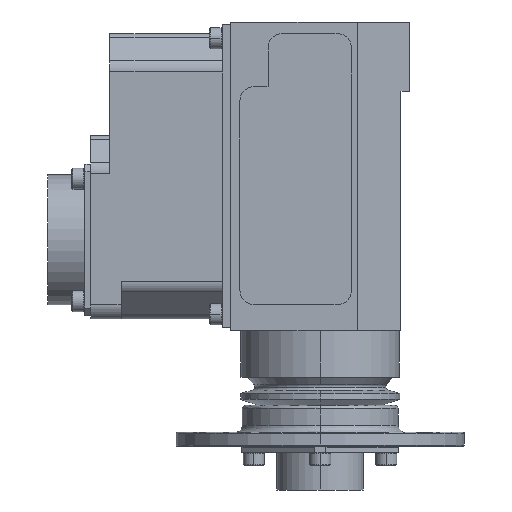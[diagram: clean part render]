
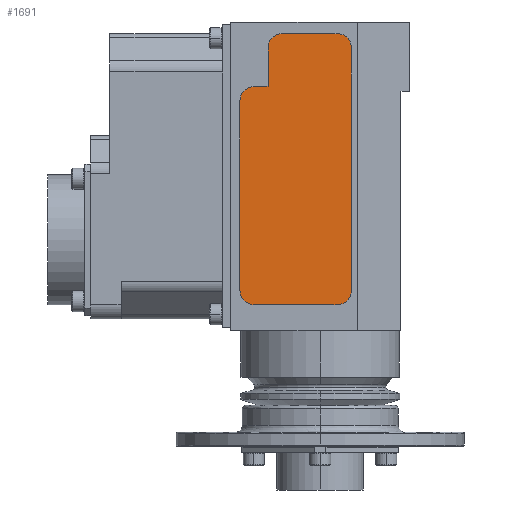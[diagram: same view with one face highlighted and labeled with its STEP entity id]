
A CAD part, left-side view. The second image highlights one B-rep face of the part: STEP entity #1691.
In plain terms, the highlighted planar face has unit normal (-1, 0, 0).
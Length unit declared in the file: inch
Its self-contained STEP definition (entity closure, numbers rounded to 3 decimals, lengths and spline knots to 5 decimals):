
#200 = CIRCLE ( 'NONE', #6161, 0.125 ) ;
#395 = VECTOR ( 'NONE', #1376, 39.37008 ) ;
#405 = DIRECTION ( 'NONE',  ( 0., 0., -1. ) ) ;
#615 = LINE ( 'NONE', #3253, #3867 ) ;
#933 = EDGE_CURVE ( 'NONE', #7830, #5581, #6726, .T. ) ;
#1049 = LINE ( 'NONE', #3728, #1948 ) ;
#1376 = DIRECTION ( 'NONE',  ( 0., 1., 0. ) ) ;
#1377 = CARTESIAN_POINT ( 'NONE',  ( -0.74, 0.327, 3.5765 ) ) ;
#1464 = VECTOR ( 'NONE', #11216, 39.37008 ) ;
#1553 = DIRECTION ( 'NONE',  ( 0., 0., 1. ) ) ;
#1691 = ADVANCED_FACE ( 'NONE', ( #14355 ), #5562, .T. ) ;
#1948 = VECTOR ( 'NONE', #405, 39.37008 ) ;
#2173 = EDGE_CURVE ( 'NONE', #8045, #11287, #13068, .T. ) ;
#2495 = CARTESIAN_POINT ( 'NONE',  ( -0.74, 0.57, 3.1175 ) ) ;
#3071 = CARTESIAN_POINT ( 'NONE',  ( -0.74, -0.146, 3.5765 ) ) ;
#3128 = DIRECTION ( 'NONE',  ( 0., -1., 0. ) ) ;
#3206 = CARTESIAN_POINT ( 'NONE',  ( -0.74, -0.146, 1.3505 ) ) ;
#3223 = EDGE_CURVE ( 'NONE', #11943, #14276, #3465, .T. ) ;
#3253 = CARTESIAN_POINT ( 'NONE',  ( -0.74, 0.327, 3.5765 ) ) ;
#3358 = EDGE_CURVE ( 'NONE', #14276, #7830, #200, .T. ) ;
#3465 = LINE ( 'NONE', #2495, #395 ) ;
#3663 = DIRECTION ( 'NONE',  ( -1., 0., 0. ) ) ;
#3728 = CARTESIAN_POINT ( 'NONE',  ( -0.74, 0.452, 3.1175 ) ) ;
#3867 = VECTOR ( 'NONE', #7824, 39.37008 ) ;
#3879 = CARTESIAN_POINT ( 'NONE',  ( -0.74, 0.452, 3.1175 ) ) ;
#3964 = DIRECTION ( 'NONE',  ( 0., -1., 0. ) ) ;
#4018 = AXIS2_PLACEMENT_3D ( 'NONE', #3206, #6714, #12599 ) ;
#4339 = CARTESIAN_POINT ( 'NONE',  ( -0.74, 0.57, 1.3505 ) ) ;
#4819 = CARTESIAN_POINT ( 'NONE',  ( -0.74, -0.271, 3.4515 ) ) ;
#4840 = DIRECTION ( 'NONE',  ( 0., 0., -1. ) ) ;
#5028 = DIRECTION ( 'NONE',  ( -1., 0., 0. ) ) ;
#5096 = DIRECTION ( 'NONE',  ( -1., 0., 0. ) ) ;
#5215 = EDGE_CURVE ( 'NONE', #14176, #9016, #7164, .T. ) ;
#5562 = PLANE ( 'NONE',  #4018 ) ;
#5581 = VERTEX_POINT ( 'NONE', #5733 ) ;
#5733 = CARTESIAN_POINT ( 'NONE',  ( -0.74, 0.695, 1.3505 ) ) ;
#5869 = DIRECTION ( 'NONE',  ( 0., -1., 0. ) ) ;
#6066 = CARTESIAN_POINT ( 'NONE',  ( -0.74, -0.146, 1.2255 ) ) ;
#6090 = CARTESIAN_POINT ( 'NONE',  ( -0.74, 0.695, 1.3505 ) ) ;
#6161 = AXIS2_PLACEMENT_3D ( 'NONE', #9763, #5028, #3964 ) ;
#6459 = EDGE_CURVE ( 'NONE', #9016, #15033, #9630, .T. ) ;
#6714 = DIRECTION ( 'NONE',  ( -1., 0., 0. ) ) ;
#6726 = LINE ( 'NONE', #6090, #9084 ) ;
#7164 = LINE ( 'NONE', #9795, #11724 ) ;
#7551 = ORIENTED_EDGE ( 'NONE', *, *, #933, .T. ) ;
#7824 = DIRECTION ( 'NONE',  ( 0., 1., 0. ) ) ;
#7830 = VERTEX_POINT ( 'NONE', #10922 ) ;
#7955 = CARTESIAN_POINT ( 'NONE',  ( -0.74, -0.271, 1.3505 ) ) ;
#8045 = VERTEX_POINT ( 'NONE', #8168 ) ;
#8064 = CIRCLE ( 'NONE', #11885, 0.125 ) ;
#8164 = EDGE_LOOP ( 'NONE', ( #14045, #13585, #9761, #13521, #14074, #12965, #13861, #12748, #11411, #9632, #7551 ) ) ;
#8168 = CARTESIAN_POINT ( 'NONE',  ( -0.74, 0.57, 1.2255 ) ) ;
#8428 = VERTEX_POINT ( 'NONE', #13408 ) ;
#8512 = DIRECTION ( 'NONE',  ( 0., -1., 0. ) ) ;
#8516 = AXIS2_PLACEMENT_3D ( 'NONE', #8964, #12422, #3128 ) ;
#8964 = CARTESIAN_POINT ( 'NONE',  ( -0.74, -0.146, 3.4515 ) ) ;
#9016 = VERTEX_POINT ( 'NONE', #4819 ) ;
#9084 = VECTOR ( 'NONE', #4840, 39.37008 ) ;
#9630 = CIRCLE ( 'NONE', #8516, 0.125 ) ;
#9632 = ORIENTED_EDGE ( 'NONE', *, *, #3358, .T. ) ;
#9761 = ORIENTED_EDGE ( 'NONE', *, *, #10794, .T. ) ;
#9763 = CARTESIAN_POINT ( 'NONE',  ( -0.74, 0.57, 2.9925 ) ) ;
#9795 = CARTESIAN_POINT ( 'NONE',  ( -0.74, -0.271, 3.4515 ) ) ;
#10794 = EDGE_CURVE ( 'NONE', #11287, #14176, #8064, .T. ) ;
#10922 = CARTESIAN_POINT ( 'NONE',  ( -0.74, 0.695, 2.9925 ) ) ;
#11021 = CARTESIAN_POINT ( 'NONE',  ( -0.74, -0.146, 1.3505 ) ) ;
#11216 = DIRECTION ( 'NONE',  ( 0., -1., 0. ) ) ;
#11287 = VERTEX_POINT ( 'NONE', #6066 ) ;
#11339 = AXIS2_PLACEMENT_3D ( 'NONE', #4339, #12434, #13616 ) ;
#11411 = ORIENTED_EDGE ( 'NONE', *, *, #3223, .T. ) ;
#11724 = VECTOR ( 'NONE', #1553, 39.37008 ) ;
#11885 = AXIS2_PLACEMENT_3D ( 'NONE', #11021, #5096, #8512 ) ;
#11943 = VERTEX_POINT ( 'NONE', #3879 ) ;
#12393 = VERTEX_POINT ( 'NONE', #1377 ) ;
#12422 = DIRECTION ( 'NONE',  ( -1., 0., 0. ) ) ;
#12434 = DIRECTION ( 'NONE',  ( -1., 0., 0. ) ) ;
#12463 = CARTESIAN_POINT ( 'NONE',  ( -0.74, -0.146, 1.2255 ) ) ;
#12599 = DIRECTION ( 'NONE',  ( 0., -1., 0. ) ) ;
#12717 = CARTESIAN_POINT ( 'NONE',  ( -0.74, 0.57, 3.1175 ) ) ;
#12727 = CIRCLE ( 'NONE', #11339, 0.125 ) ;
#12748 = ORIENTED_EDGE ( 'NONE', *, *, #13604, .T. ) ;
#12791 = EDGE_CURVE ( 'NONE', #15033, #12393, #615, .T. ) ;
#12965 = ORIENTED_EDGE ( 'NONE', *, *, #12791, .T. ) ;
#13068 = LINE ( 'NONE', #12463, #1464 ) ;
#13363 = EDGE_CURVE ( 'NONE', #5581, #8045, #12727, .T. ) ;
#13408 = CARTESIAN_POINT ( 'NONE',  ( -0.74, 0.452, 3.4515 ) ) ;
#13521 = ORIENTED_EDGE ( 'NONE', *, *, #5215, .T. ) ;
#13585 = ORIENTED_EDGE ( 'NONE', *, *, #2173, .T. ) ;
#13604 = EDGE_CURVE ( 'NONE', #8428, #11943, #1049, .T. ) ;
#13616 = DIRECTION ( 'NONE',  ( 0., -1., 0. ) ) ;
#13679 = AXIS2_PLACEMENT_3D ( 'NONE', #14004, #3663, #5869 ) ;
#13861 = ORIENTED_EDGE ( 'NONE', *, *, #14481, .T. ) ;
#14004 = CARTESIAN_POINT ( 'NONE',  ( -0.74, 0.327, 3.4515 ) ) ;
#14045 = ORIENTED_EDGE ( 'NONE', *, *, #13363, .T. ) ;
#14074 = ORIENTED_EDGE ( 'NONE', *, *, #6459, .T. ) ;
#14176 = VERTEX_POINT ( 'NONE', #7955 ) ;
#14273 = CIRCLE ( 'NONE', #13679, 0.125 ) ;
#14276 = VERTEX_POINT ( 'NONE', #12717 ) ;
#14355 = FACE_OUTER_BOUND ( 'NONE', #8164, .T. ) ;
#14481 = EDGE_CURVE ( 'NONE', #12393, #8428, #14273, .T. ) ;
#15033 = VERTEX_POINT ( 'NONE', #3071 ) ;
